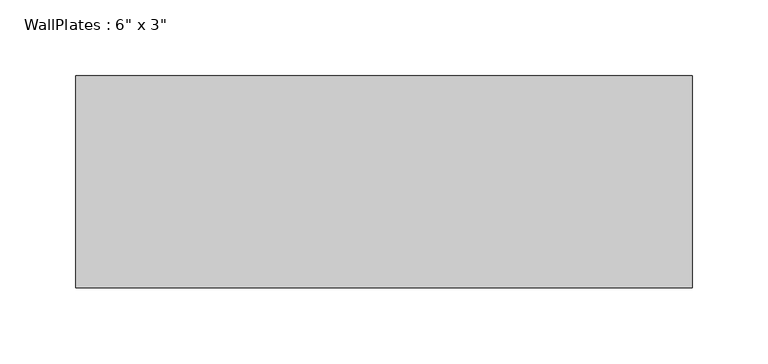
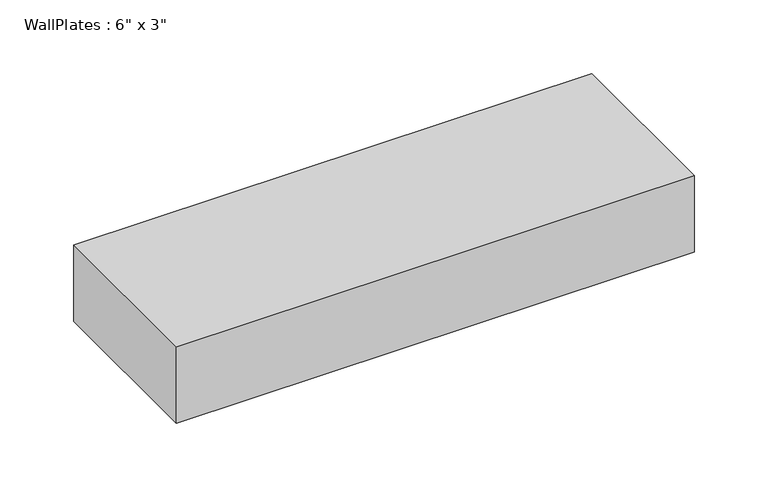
"""IFC4 building model written with IfcOpenShell, lengths in millimetres: beam geometry."""

import ifcopenshell
import ifcopenshell.guid

model = None  # the IFC model being written
_history = None  # IfcOwnerHistory: only IFC2X3 demands one
_inside = {}  # id of a spatial element -> (the spatial element, [elements in it])
_under = {}  # id of a project, library or spatial element -> (it, [spatial elements below it])
_declared = {}  # id of a project -> (the project, [libraries it declares])
_typed = {}  # id of a type object -> (the type object, [elements of that type])
_made_of = {}  # id of a material, layer set ... -> (it, [elements and type objects made of it])


def new_model(schema):
    """Start an empty IFC model of exactly this schema.

    Asked for "IFC4X3", IfcOpenShell would pick the latest addendum, in which some entities
    have other attributes; the version numbers below select the first issue.
    IFC2X3 requires an IfcOwnerHistory on every rooted entity: one is made here for all.
    """
    global model, _history
    if schema == "IFC4X3":
        model = ifcopenshell.file(schema_version=(4, 3, 0, 0))
    else:
        model = ifcopenshell.file(schema=schema)
    _inside.clear()
    _under.clear()
    _declared.clear()
    _typed.clear()
    _made_of.clear()
    _history = None
    if model.schema == "IFC2X3":
        org = make("IfcOrganization", Name="unknown")
        user = make(
            "IfcPersonAndOrganization",
            ThePerson=make("IfcPerson", FamilyName="unknown"),
            TheOrganization=org,
        )
        app = make(
            "IfcApplication",
            ApplicationDeveloper=org,
            Version="unknown",
            ApplicationFullName="unknown",
            ApplicationIdentifier="unknown",
        )
        _history = make(
            "IfcOwnerHistory",
            OwningUser=user,
            OwningApplication=app,
            ChangeAction="ADDED",
            CreationDate=0,
        )
    return model


def make(cls, **values):
    """One entity of the class cls with the attributes given. An attribute that is None is left unset."""
    return model.create_entity(
        cls, **{name: value for name, value in values.items() if value is not None}
    )


def rooted(cls, **values):
    """An entity with a GlobalId (a new one), such as an element, a storey or a relation."""
    return make(cls, GlobalId=ifcopenshell.guid.new(), OwnerHistory=_history, **values)


def si_unit(unit_type, name, prefix=None):
    """IfcSIUnit, for example si_unit("LENGTHUNIT", "METRE", prefix="MILLI")."""
    return make("IfcSIUnit", UnitType=unit_type, Prefix=prefix, Name=name)


def assignment(units):
    """IfcUnitAssignment: the units of a project."""
    return None if units is None else make("IfcUnitAssignment", Units=units)


def point(xyz):
    """IfcCartesianPoint."""
    return None if xyz is None else make("IfcCartesianPoint", Coordinates=xyz)


def direction(xyz):
    """IfcDirection."""
    return None if xyz is None else make("IfcDirection", DirectionRatios=xyz)


def frame(location, z_axis=None, x_axis=None):
    """IfcAxis2Placement3D, a coordinate frame: its origin and axes. An axis left out is left unset."""
    return make(
        "IfcAxis2Placement3D",
        Location=point(location),
        Axis=direction(z_axis),
        RefDirection=direction(x_axis),
    )


def origin():
    """The frame at (0, 0, 0) with its axes left unset."""
    return frame((0.0, 0.0, 0.0))


def place(relative_to, where):
    """IfcLocalPlacement: puts the frame where relative to a parent placement (None: the world)."""
    return make(
        "IfcLocalPlacement", PlacementRelTo=relative_to, RelativePlacement=where
    )


def context(
    kind, dimensions, precision=None, world=None, true_north=None, identifier=None
):
    """IfcGeometricRepresentationContext, for example the 3D "Model" context."""
    return make(
        "IfcGeometricRepresentationContext",
        ContextIdentifier=identifier,
        ContextType=kind,
        CoordinateSpaceDimension=dimensions,
        Precision=precision,
        WorldCoordinateSystem=world,
        TrueNorth=true_north,
    )


def project(units=None, contexts=None):
    """IfcProject with its units and contexts."""
    return rooted(
        "IfcProject",
        Name="project",
        RepresentationContexts=contexts,
        UnitsInContext=assignment(units),
    )


def spatial(cls, under=None, at=None, **own):
    """A site, building, storey or space (cls), placed at a placement, below another one or the project."""
    s = rooted(cls, ObjectPlacement=at, **own)
    if under is not None:
        _under.setdefault(under.id(), (under, []))[1].append(s)
    return s


def polyline(points):
    """IfcPolyline through the points."""
    return make("IfcPolyline", Points=[point(p) for p in points])


def outline(outer, holes=None, kind="AREA"):
    """IfcArbitraryClosedProfileDef: a profile drawn as a closed curve; with holes, ...WithVoids."""
    if holes is None:
        return make("IfcArbitraryClosedProfileDef", ProfileType=kind, OuterCurve=outer)
    return make(
        "IfcArbitraryProfileDefWithVoids",
        ProfileType=kind,
        OuterCurve=outer,
        InnerCurves=holes,
    )


def extrude(swept, where, along, depth):
    """IfcExtrudedAreaSolid: the profile swept, set in the frame where, extruded along a direction by depth."""
    return make(
        "IfcExtrudedAreaSolid",
        SweptArea=swept,
        Position=where,
        ExtrudedDirection=direction(along),
        Depth=depth,
    )


def shape(context_of_items, identifier, shape_type, items):
    """IfcShapeRepresentation: the items that make up one representation, for example the "Body"."""
    return make(
        "IfcShapeRepresentation",
        ContextOfItems=context_of_items,
        RepresentationIdentifier=identifier,
        RepresentationType=shape_type,
        Items=items,
    )


def source(mapping_origin, context_of_items, identifier, shape_type, items):
    """IfcRepresentationMap: a shape defined once, which mapped items show again and again."""
    return make(
        "IfcRepresentationMap",
        MappingOrigin=mapping_origin,
        MappedRepresentation=shape(context_of_items, identifier, shape_type, items),
    )


def transform(
    local_origin,
    x_axis=None,
    y_axis=None,
    z_axis=None,
    scale=None,
    scale2=None,
    scale3=None,
    uniform=True,
):
    """IfcCartesianTransformationOperator3D, or its non-uniform kind. x_axis, y_axis, z_axis: its Axis1, 2, 3."""
    if uniform:
        return make(
            "IfcCartesianTransformationOperator3D",
            Axis1=direction(x_axis),
            Axis2=direction(y_axis),
            LocalOrigin=point(local_origin),
            Scale=scale,
            Axis3=direction(z_axis),
        )
    return make(
        "IfcCartesianTransformationOperator3DnonUniform",
        Axis1=direction(x_axis),
        Axis2=direction(y_axis),
        LocalOrigin=point(local_origin),
        Scale=scale,
        Axis3=direction(z_axis),
        Scale2=scale2,
        Scale3=scale3,
    )


def mapped(mapping_source, mapping_target):
    """IfcMappedItem: shows the shape of a source again, moved by a transform."""
    return make(
        "IfcMappedItem", MappingSource=mapping_source, MappingTarget=mapping_target
    )


def made_of(thing, what):
    """Note that an element or type object is made of a material, layer set ...; save() writes the relation."""
    if what is not None:
        _made_of.setdefault(what.id(), (what, []))[1].append(thing)
    return thing


def element(
    cls,
    number,
    at=None,
    inside=None,
    cuts=None,
    type_object=None,
    material=None,
    context=None,
    identifier="Body",
    shape_type=None,
    held_by="IfcProductDefinitionShape",
    body=None,
    shapes=None,
    **own,
):
    """One element of the class cls, such as IfcWall. Its Tag is "e" and its number.

    at: its placement. inside: the storey or other place that contains it. cuts: it is an
    opening in that element (IfcRelVoidsElement). A single representation is given by context,
    identifier, shape_type and body (its items); several are given by shapes. held_by: the class
    of the entity that holds the representations. save() writes the other relations.
    """
    e = rooted(cls, Tag="e%d" % number, ObjectPlacement=at, **own)
    if body is not None:
        shapes = [shape(context, identifier, shape_type, body)]
    if shapes is not None:
        e.Representation = make(held_by, Representations=shapes)
    if inside is not None:
        _inside.setdefault(inside.id(), (inside, []))[1].append(e)
    if cuts is not None:
        rooted(
            "IfcRelVoidsElement", RelatingBuildingElement=cuts, RelatedOpeningElement=e
        )
    if type_object is not None:
        _typed.setdefault(type_object.id(), (type_object, []))[1].append(e)
    return made_of(e, material)


def aggregate(whole, parts):
    """IfcRelAggregates: a whole, such as a stair, and the parts it consists of."""
    return rooted("IfcRelAggregates", RelatingObject=whole, RelatedObjects=parts)


def save(model, path):
    """Write the relations noted so far, then the file.

    IfcRelAggregates (storeys below a building ...), IfcRelContainedInSpatialStructure (elements
    in a storey), IfcRelDefinesByType, IfcRelAssociatesMaterial and IfcRelDeclares: one each for
    every whole, place, type object, material and project.
    """
    for whole, parts in _under.values():
        aggregate(whole, parts)
    for where, things in _inside.values():
        rooted(
            "IfcRelContainedInSpatialStructure",
            RelatedElements=things,
            RelatingStructure=where,
        )
    for kind, things in _typed.values():
        rooted("IfcRelDefinesByType", RelatedObjects=things, RelatingType=kind)
    for what, things in _made_of.values():
        rooted("IfcRelAssociatesMaterial", RelatedObjects=things, RelatingMaterial=what)
    for by, libraries in _declared.values():
        rooted("IfcRelDeclares", RelatingContext=by, RelatedDefinitions=libraries)
    model.write(path)


def beam_89d9a2a3(model_context):
    return source(origin(), model_context, "Body", "SweptSolid", [
        extrude(outline(polyline([(-203.21, -69.85), (-203.21, 69.85), (203.21, 69.85), (203.21, -69.85), (-203.21, -69.85)])), frame((0.0, 0.0, -31.75), z_axis=(0.0, 0.0, 1.0), x_axis=(1.0, 0.0, 0.0)), (0.0, 0.0, 1.0), 63.5),
    ])


if __name__ == "__main__":
    model = new_model("IFC4")
    model_context = context("Model", 3, world=origin())
    ifc_project = project(units=[si_unit("LENGTHUNIT", "METRE", prefix="MILLI")], contexts=[model_context])
    site = spatial("IfcSite", under=ifc_project)
    building = spatial("IfcBuilding", under=site)
    placement = place(None, origin())
    beam_shape = beam_89d9a2a3(model_context)
    element("IfcBeam", 1, ObjectType="WallPlates : 6\" x 3\"", at=placement, inside=building, context=model_context, shape_type="MappedRepresentation", body=[
        mapped(beam_shape, transform((0.0, 0.0, 0.0), x_axis=(1.0, 0.0, 0.0), y_axis=(0.0, 1.0, 0.0), z_axis=(0.0, 0.0, 1.0))),
    ])
    save(model, "model.ifc")
